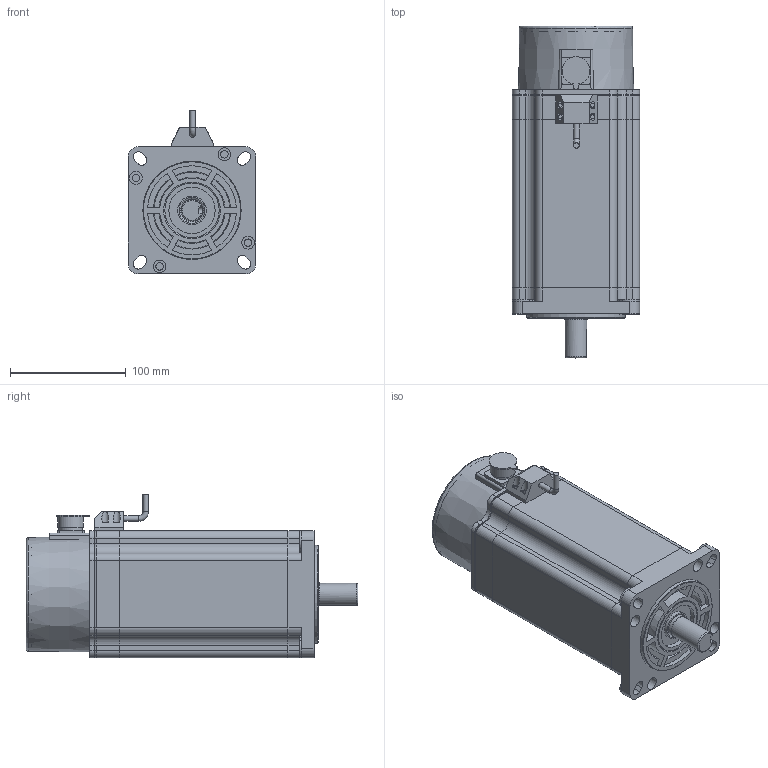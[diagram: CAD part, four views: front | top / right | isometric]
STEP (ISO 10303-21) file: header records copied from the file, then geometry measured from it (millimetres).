
FILE_DESCRIPTION(/* description */ (''),/* implementation_level */ '2;1');
FILE_NAME(/* name */ '110BYG350D(止口φ85).stp',/* time_stamp */ '2024-08-16T09:52:25+08:00',/* author */ (''),/* organization */ (''),/* preprocessor_version */ 'ST-DEVELOPER v18.1',/* originating_system */ 'SIEMENS PLM Software NX 2000',/* authorisation */ '');
FILE_SCHEMA (('AUTOMOTIVE_DESIGN { 1 0 10303 214 3 1 1 1 }'));
Length unit declared in the file: millimetre
Products named in the file (1): 925032A4A3696tkl
Bounding box: 110 x 287 x 141.72 mm (x, y, z)
Volume: 2076015.1 mm3; surface area: 241980.7 mm2
Topology: 10 solids, 10 shells, 548 faces, 1493 edges, 984 vertices
Faces by surface type: plane 358, cylinder 147, cone 26, torus 17
Full cylindrical faces by diameter (mm): 3 x4, 3.5 x4, 4.8 x2, 6 x4, 6.5 x12, 7 x1, 11 x4, 16.5 x1, 19 x1, 19.7 x1, 20 x1, 20.196 x2, 22.032 x1, 22.288 x1, 24.616 x1, 40 x1, 47 x2, 85 x1
Entity records: 17433 total; most frequent: CARTESIAN_POINT 3366, DIRECTION 2816, ORIENTED_EDGE 2806, EDGE_CURVE 1403, LINE 1020, VECTOR 1020, VERTEX_POINT 953, AXIS2_PLACEMENT_3D 898
